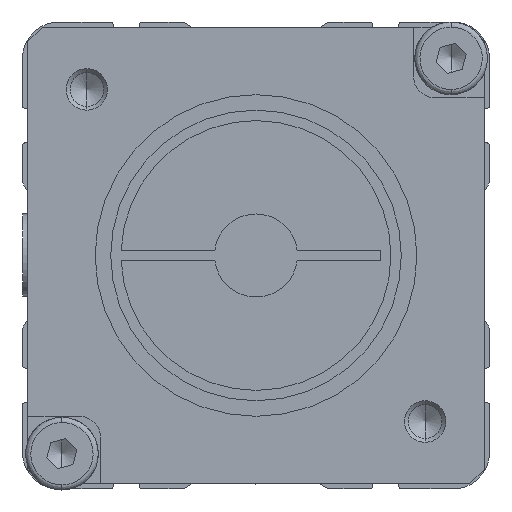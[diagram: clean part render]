
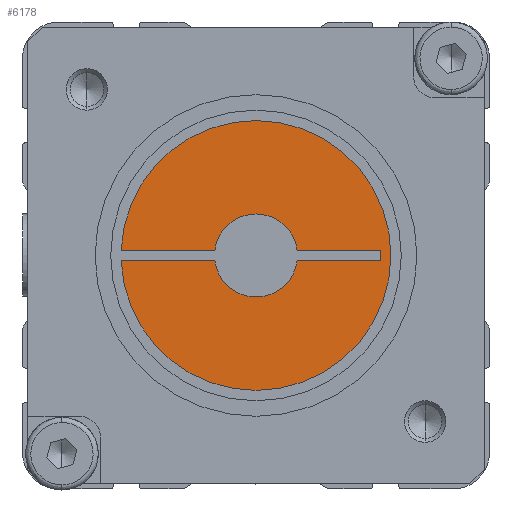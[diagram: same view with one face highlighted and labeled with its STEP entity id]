
A CAD part, left-side view. The second image highlights one B-rep face of the part: STEP entity #6178.
In plain terms, the highlighted planar face has unit normal (-1, 0, 0).
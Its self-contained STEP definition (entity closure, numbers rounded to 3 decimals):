
#798 = ORIENTED_EDGE ( 'NONE', *, *, #1387, .F. ) ;
#799 = ORIENTED_EDGE ( 'NONE', *, *, #1408, .F. ) ;
#800 = ORIENTED_EDGE ( 'NONE', *, *, #1407, .T. ) ;
#801 = ORIENTED_EDGE ( 'NONE', *, *, #1406, .T. ) ;
#802 = ORIENTED_EDGE ( 'NONE', *, *, #1405, .T. ) ;
#803 = ORIENTED_EDGE ( 'NONE', *, *, #1399, .F. ) ;
#804 = ORIENTED_EDGE ( 'NONE', *, *, #1404, .T. ) ;
#806 = ORIENTED_EDGE ( 'NONE', *, *, #1403, .T. ) ;
#808 = ORIENTED_EDGE ( 'NONE', *, *, #1381, .T. ) ;
#818 = ORIENTED_EDGE ( 'NONE', *, *, #1402, .T. ) ;
#819 = ORIENTED_EDGE ( 'NONE', *, *, #1383, .F. ) ;
#1022 = CIRCLE ( 'NONE', #7512, 4. ) ;
#1025 = CIRCLE ( 'NONE', #7513, 13. ) ;
#1031 = CIRCLE ( 'NONE', #7515, 13. ) ;
#1048 = LINE ( 'NONE', #5568, #1049 ) ;
#1049 = VECTOR ( 'NONE', #5567, 1000. ) ;
#1054 = LINE ( 'NONE', #5561, #1055 ) ;
#1055 = VECTOR ( 'NONE', #5560, 1000. ) ;
#1056 = LINE ( 'NONE', #5556, #1058 ) ;
#1057 = CIRCLE ( 'NONE', #7521, 4. ) ;
#1058 = VECTOR ( 'NONE', #5555, 1000. ) ;
#1059 = LINE ( 'NONE', #5554, #1060 ) ;
#1060 = VECTOR ( 'NONE', #5553, 1000. ) ;
#1061 = LINE ( 'NONE', #5549, #1063 ) ;
#1062 = CIRCLE ( 'NONE', #7522, 4. ) ;
#1063 = VECTOR ( 'NONE', #5548, 1000. ) ;
#1065 = CIRCLE ( 'NONE', #7523, 13. ) ;
#1381 = EDGE_CURVE ( 'NONE', #3152, #3153, #1022, .T. ) ;
#1383 = EDGE_CURVE ( 'NONE', #3151, #3150, #1025, .T. ) ;
#1387 = EDGE_CURVE ( 'NONE', #3150, #3147, #1031, .T. ) ;
#1399 = EDGE_CURVE ( 'NONE', #3138, #3137, #1048, .T. ) ;
#1402 = EDGE_CURVE ( 'NONE', #3151, #3152, #1054, .T. ) ;
#1403 = EDGE_CURVE ( 'NONE', #3153, #3135, #1057, .T. ) ;
#1404 = EDGE_CURVE ( 'NONE', #3135, #3137, #1056, .T. ) ;
#1405 = EDGE_CURVE ( 'NONE', #3138, #3134, #1059, .T. ) ;
#1406 = EDGE_CURVE ( 'NONE', #3134, #3133, #1062, .T. ) ;
#1407 = EDGE_CURVE ( 'NONE', #3133, #3132, #1061, .T. ) ;
#1408 = EDGE_CURVE ( 'NONE', #3147, #3132, #1065, .T. ) ;
#3132 = VERTEX_POINT ( 'NONE', #5297 ) ;
#3133 = VERTEX_POINT ( 'NONE', #5296 ) ;
#3134 = VERTEX_POINT ( 'NONE', #5295 ) ;
#3135 = VERTEX_POINT ( 'NONE', #5294 ) ;
#3137 = VERTEX_POINT ( 'NONE', #5292 ) ;
#3138 = VERTEX_POINT ( 'NONE', #5291 ) ;
#3147 = VERTEX_POINT ( 'NONE', #5282 ) ;
#3150 = VERTEX_POINT ( 'NONE', #5279 ) ;
#3151 = VERTEX_POINT ( 'NONE', #5278 ) ;
#3152 = VERTEX_POINT ( 'NONE', #5277 ) ;
#3153 = VERTEX_POINT ( 'NONE', #5276 ) ;
#4407 = EDGE_LOOP ( 'NONE', ( #819, #818, #808, #806, #804, #803, #802, #801, #800, #799, #798 ) ) ;
#5276 = CARTESIAN_POINT ( 'NONE',  ( -175.5, 0., 4. ) ) ;
#5277 = CARTESIAN_POINT ( 'NONE',  ( -175.5, 3.969, 0.5 ) ) ;
#5278 = CARTESIAN_POINT ( 'NONE',  ( -175.5, 12.99, 0.5 ) ) ;
#5279 = CARTESIAN_POINT ( 'NONE',  ( -175.5, 0., 13. ) ) ;
#5282 = CARTESIAN_POINT ( 'NONE',  ( -175.5, 0., -13. ) ) ;
#5291 = CARTESIAN_POINT ( 'NONE',  ( -175.5, -12., -0.5 ) ) ;
#5292 = CARTESIAN_POINT ( 'NONE',  ( -175.5, -12., 0.5 ) ) ;
#5294 = CARTESIAN_POINT ( 'NONE',  ( -175.5, -3.969, 0.5 ) ) ;
#5295 = CARTESIAN_POINT ( 'NONE',  ( -175.5, -3.969, -0.5 ) ) ;
#5296 = CARTESIAN_POINT ( 'NONE',  ( -175.5, 3.969, -0.5 ) ) ;
#5297 = CARTESIAN_POINT ( 'NONE',  ( -175.5, 12.99, -0.5 ) ) ;
#5545 = DIRECTION ( 'NONE',  ( 0., 0., -1. ) ) ;
#5546 = DIRECTION ( 'NONE',  ( 1., 0., 0. ) ) ;
#5547 = CARTESIAN_POINT ( 'NONE',  ( -175.5, 0., 0. ) ) ;
#5548 = DIRECTION ( 'NONE',  ( 0., 1., 0. ) ) ;
#5549 = CARTESIAN_POINT ( 'NONE',  ( -175.5, 13.991, -0.5 ) ) ;
#5550 = DIRECTION ( 'NONE',  ( 0., 0., 1. ) ) ;
#5551 = DIRECTION ( 'NONE',  ( 1., 0., 0. ) ) ;
#5552 = CARTESIAN_POINT ( 'NONE',  ( -175.5, 0., 0. ) ) ;
#5553 = DIRECTION ( 'NONE',  ( 0., 1., 0. ) ) ;
#5554 = CARTESIAN_POINT ( 'NONE',  ( -175.5, -3.969, -0.5 ) ) ;
#5555 = DIRECTION ( 'NONE',  ( 0., -1., 0. ) ) ;
#5556 = CARTESIAN_POINT ( 'NONE',  ( -175.5, -12., 0.5 ) ) ;
#5557 = DIRECTION ( 'NONE',  ( 0., 0., 1. ) ) ;
#5558 = DIRECTION ( 'NONE',  ( 1., 0., 0. ) ) ;
#5559 = CARTESIAN_POINT ( 'NONE',  ( -175.5, 0., 0. ) ) ;
#5560 = DIRECTION ( 'NONE',  ( 0., -1., 0. ) ) ;
#5561 = CARTESIAN_POINT ( 'NONE',  ( -175.5, 3.969, 0.5 ) ) ;
#5567 = DIRECTION ( 'NONE',  ( 0., 0., 1. ) ) ;
#5568 = CARTESIAN_POINT ( 'NONE',  ( -175.5, -12., 0. ) ) ;
#5608 = DIRECTION ( 'NONE',  ( 0., 0., -1. ) ) ;
#5609 = DIRECTION ( 'NONE',  ( 1., 0., 0. ) ) ;
#5610 = CARTESIAN_POINT ( 'NONE',  ( -175.5, 0., 0. ) ) ;
#5621 = DIRECTION ( 'NONE',  ( 0., 0., -1. ) ) ;
#5623 = DIRECTION ( 'NONE',  ( 1., 0., 0. ) ) ;
#5624 = CARTESIAN_POINT ( 'NONE',  ( -175.5, 0., 0. ) ) ;
#5628 = DIRECTION ( 'NONE',  ( 0., 0., 1. ) ) ;
#5630 = DIRECTION ( 'NONE',  ( 1., 0., 0. ) ) ;
#5631 = CARTESIAN_POINT ( 'NONE',  ( -175.5, 0., 0. ) ) ;
#6178 = ADVANCED_FACE ( 'NONE', ( #9581 ), #8522, .F. ) ;
#7512 = AXIS2_PLACEMENT_3D ( 'NONE', #5631, #5630, #5628 ) ;
#7513 = AXIS2_PLACEMENT_3D ( 'NONE', #5624, #5623, #5621 ) ;
#7515 = AXIS2_PLACEMENT_3D ( 'NONE', #5610, #5609, #5608 ) ;
#7521 = AXIS2_PLACEMENT_3D ( 'NONE', #5559, #5558, #5557 ) ;
#7522 = AXIS2_PLACEMENT_3D ( 'NONE', #5552, #5551, #5550 ) ;
#7523 = AXIS2_PLACEMENT_3D ( 'NONE', #5547, #5546, #5545 ) ;
#7798 = AXIS2_PLACEMENT_3D ( 'NONE', #8523, #8524, #8525 ) ;
#8522 = PLANE ( 'NONE',  #7798 ) ;
#8523 = CARTESIAN_POINT ( 'NONE',  ( -175.5, 0., 0. ) ) ;
#8524 = DIRECTION ( 'NONE',  ( 1., 0., 0. ) ) ;
#8525 = DIRECTION ( 'NONE',  ( 0., 0., -1. ) ) ;
#9581 = FACE_OUTER_BOUND ( 'NONE', #4407, .T. ) ;
